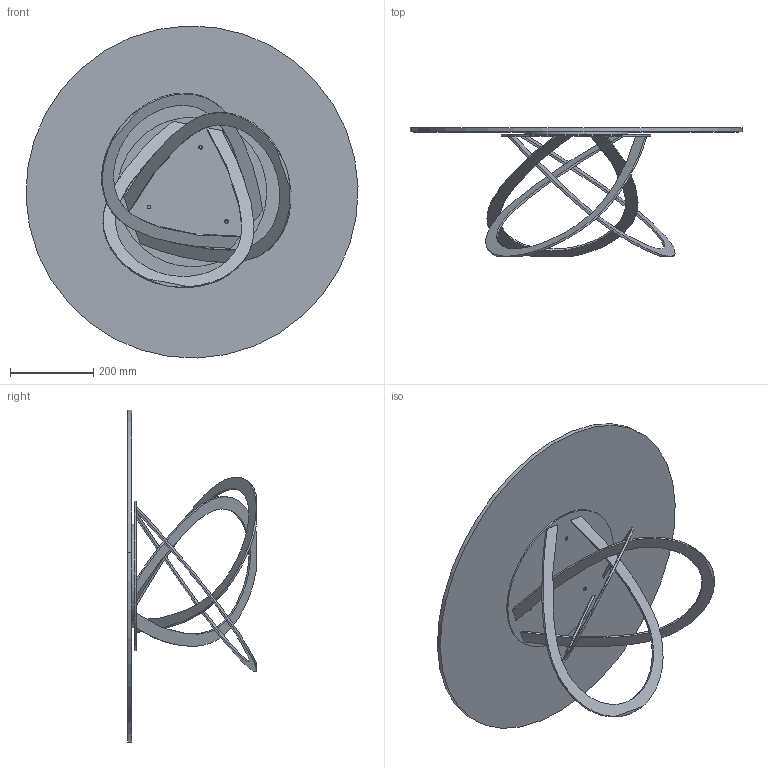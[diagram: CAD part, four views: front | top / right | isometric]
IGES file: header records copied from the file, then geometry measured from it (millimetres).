
Start section: SolidWorks IGES file using analytic representation for surfaces
Global section: file name: Y:\eforma\TECNICO\SOLIDWORKS\E-FORMA\2-TAVOLINI\FEBE LOW\02 parts\FL12G_Febe Low_d80xh32_Glass.IGS; native system: SolidWorks 2022; preprocessor: SolidWorks 2022; author: eforma.tech; date: 240806.105935; units: millimetre
Bounding box: 799.58 x 309.55 x 799.58 mm (x, y, z)
Volume: 6260573.8 mm3; surface area: 1591857.1 mm2
Topology: 6 solids, 6 shells, 83 faces, 192 edges, 127 vertices
Faces by surface type: plane 39, revolution 26, bspline 18
